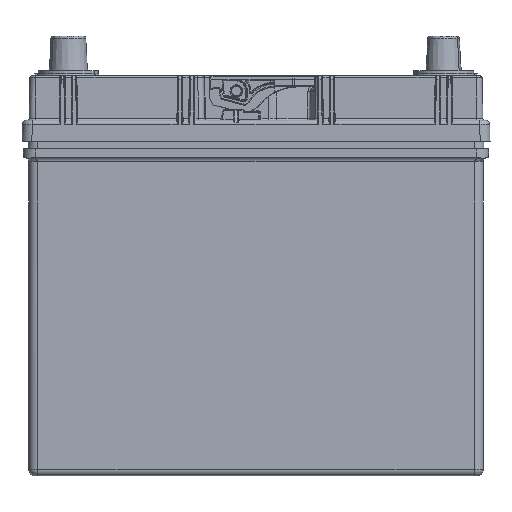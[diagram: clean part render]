
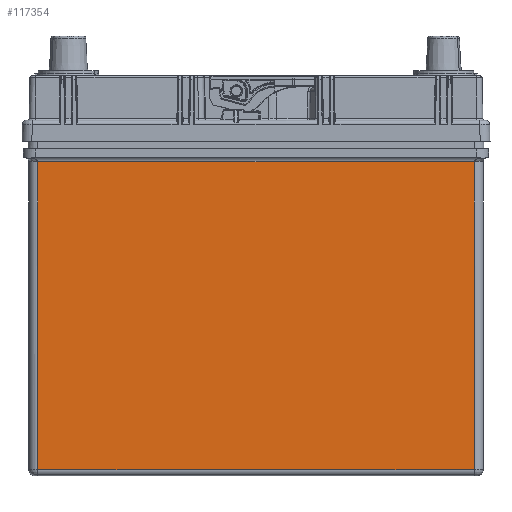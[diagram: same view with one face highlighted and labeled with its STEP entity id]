
A CAD part, left-side view. The second image highlights one B-rep face of the part: STEP entity #117354.
In plain terms, the highlighted planar face has unit normal (-1, 0, 0).
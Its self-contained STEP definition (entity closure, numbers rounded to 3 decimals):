
#116462=CARTESIAN_POINT('Line Origine',(-60.5,62.5,158.91)) ;
#116466=CARTESIAN_POINT('Vertex',(-60.5,110.6,158.91)) ;
#116468=CARTESIAN_POINT('Vertex',(-60.5,-110.6,158.91)) ;
#117292=CARTESIAN_POINT('Axis2P3D Location',(-60.5,0.,19.055)) ;
#117297=CARTESIAN_POINT('Line Origine',(-60.5,0.,3.)) ;
#117301=CARTESIAN_POINT('Vertex',(-60.5,-70.173,3.)) ;
#117303=CARTESIAN_POINT('Vertex',(-60.5,70.173,3.)) ;
#117306=CARTESIAN_POINT('Line Origine',(-60.5,-70.586,3.)) ;
#117310=CARTESIAN_POINT('Vertex',(-60.5,-71.,3.)) ;
#117313=CARTESIAN_POINT('Line Origine',(-60.5,-90.8,3.)) ;
#117317=CARTESIAN_POINT('Vertex',(-60.5,-110.6,3.)) ;
#117320=CARTESIAN_POINT('Line Origine',(-60.5,-110.6,80.955)) ;
#117325=CARTESIAN_POINT('Line Origine',(-60.5,110.6,80.955)) ;
#117329=CARTESIAN_POINT('Vertex',(-60.5,110.6,3.)) ;
#117332=CARTESIAN_POINT('Line Origine',(-60.5,90.8,3.)) ;
#117336=CARTESIAN_POINT('Vertex',(-60.5,71.,3.)) ;
#117339=CARTESIAN_POINT('Line Origine',(-60.5,70.586,3.)) ;
#116463=DIRECTION('Vector Direction',(0.,1.,0.)) ;
#117293=DIRECTION('Axis2P3D Direction',(1.,-0.,0.)) ;
#117294=DIRECTION('Axis2P3D XDirection',(0.,0.,-1.)) ;
#117298=DIRECTION('Vector Direction',(0.,1.,0.)) ;
#117307=DIRECTION('Vector Direction',(0.,1.,0.)) ;
#117314=DIRECTION('Vector Direction',(0.,-1.,0.)) ;
#117321=DIRECTION('Vector Direction',(0.,0.,-1.)) ;
#117326=DIRECTION('Vector Direction',(0.,0.,-1.)) ;
#117333=DIRECTION('Vector Direction',(0.,-1.,0.)) ;
#117340=DIRECTION('Vector Direction',(0.,1.,0.)) ;
#117295=AXIS2_PLACEMENT_3D('Plane Axis2P3D',#117292,#117293,#117294) ;
#117345=ORIENTED_EDGE('',*,*,#117305,.F.) ;
#117346=ORIENTED_EDGE('',*,*,#117312,.F.) ;
#117347=ORIENTED_EDGE('',*,*,#117319,.F.) ;
#117348=ORIENTED_EDGE('',*,*,#117324,.F.) ;
#117349=ORIENTED_EDGE('',*,*,#116470,.F.) ;
#117350=ORIENTED_EDGE('',*,*,#117331,.T.) ;
#117351=ORIENTED_EDGE('',*,*,#117338,.T.) ;
#117352=ORIENTED_EDGE('',*,*,#117343,.T.) ;
#116464=VECTOR('Line Direction',#116463,1.) ;
#117299=VECTOR('Line Direction',#117298,1.) ;
#117308=VECTOR('Line Direction',#117307,1.) ;
#117315=VECTOR('Line Direction',#117314,1.) ;
#117322=VECTOR('Line Direction',#117321,1.) ;
#117327=VECTOR('Line Direction',#117326,1.) ;
#117334=VECTOR('Line Direction',#117333,1.) ;
#117341=VECTOR('Line Direction',#117340,1.) ;
#117354=ADVANCED_FACE('ASSY_GR_B24_NO_HLDN',(#117353),#117296,.F.) ;
#116470=EDGE_CURVE('',#116467,#116469,#116465,.F.) ;
#117305=EDGE_CURVE('',#117302,#117304,#117300,.T.) ;
#117312=EDGE_CURVE('',#117311,#117302,#117309,.T.) ;
#117319=EDGE_CURVE('',#117318,#117311,#117316,.F.) ;
#117324=EDGE_CURVE('',#116469,#117318,#117323,.T.) ;
#117331=EDGE_CURVE('',#116467,#117330,#117328,.T.) ;
#117338=EDGE_CURVE('',#117330,#117337,#117335,.T.) ;
#117343=EDGE_CURVE('',#117337,#117304,#117342,.F.) ;
#117344=EDGE_LOOP('',(#117345,#117346,#117347,#117348,#117349,#117350,#117351,#117352)) ;
#117353=FACE_OUTER_BOUND('',#117344,.T.) ;
#116465=LINE('Line',#116462,#116464) ;
#117300=LINE('Line',#117297,#117299) ;
#117309=LINE('Line',#117306,#117308) ;
#117316=LINE('Line',#117313,#117315) ;
#117323=LINE('Line',#117320,#117322) ;
#117328=LINE('Line',#117325,#117327) ;
#117335=LINE('Line',#117332,#117334) ;
#117342=LINE('Line',#117339,#117341) ;
#117296=PLANE('',#117295) ;
#116467=VERTEX_POINT('',#116466) ;
#116469=VERTEX_POINT('',#116468) ;
#117302=VERTEX_POINT('',#117301) ;
#117304=VERTEX_POINT('',#117303) ;
#117311=VERTEX_POINT('',#117310) ;
#117318=VERTEX_POINT('',#117317) ;
#117330=VERTEX_POINT('',#117329) ;
#117337=VERTEX_POINT('',#117336) ;
